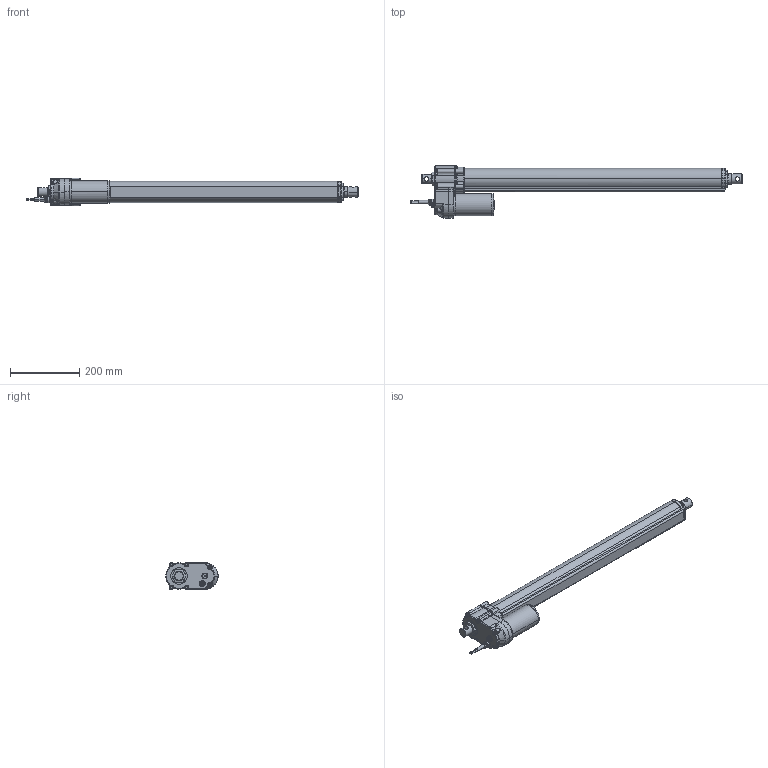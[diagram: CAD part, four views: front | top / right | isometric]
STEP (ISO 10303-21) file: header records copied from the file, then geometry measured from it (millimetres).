
FILE_DESCRIPTION(('STEP AP203'),'1');
FILE_NAME('LINACT-33P-600MM.stp','2025-11-20T12:31:31',('Linear Actuators S.A.'),('Linear Actuators South Africa (Pty) Ltd'),'Spatial InterOp 3D',' ',' ');
FILE_SCHEMA(('CONFIG_CONTROL_DESIGN'));
Length unit declared in the file: millimetre
Products named in the file (1): 1
Bounding box: 961.27 x 151.4 x 79 mm (x, y, z)
Volume: 3626356.4 mm3; surface area: 248096.3 mm2
Topology: 1 solids, 1 shells, 940 faces, 2391 edges, 1467 vertices
Faces by surface type: torus 294, plane 239, cylinder 234, bspline 105, cone 66, sphere 2
Entity records: 41074 total; most frequent: CARTESIAN_POINT 19629, ORIENTED_EDGE 4728, DIRECTION 4260, EDGE_CURVE 2364, AXIS2_PLACEMENT_3D 1786, VERTEX_POINT 1467, EDGE_LOOP 985, CIRCLE 942
